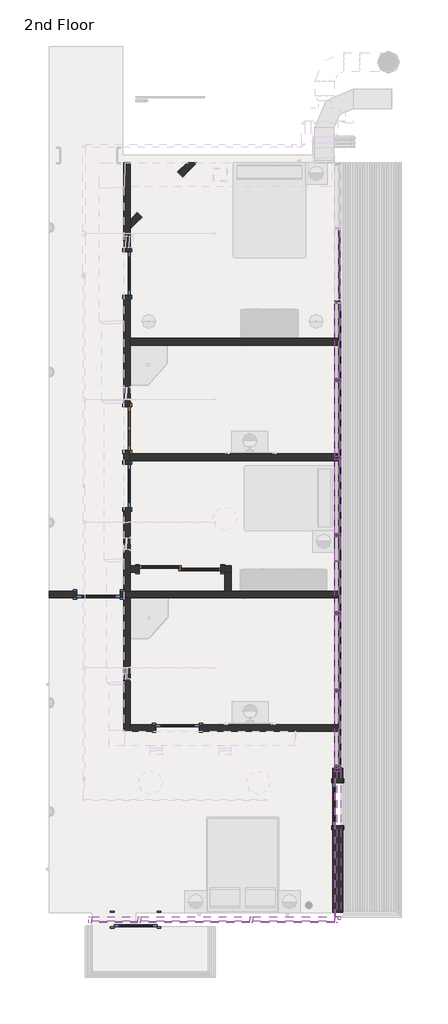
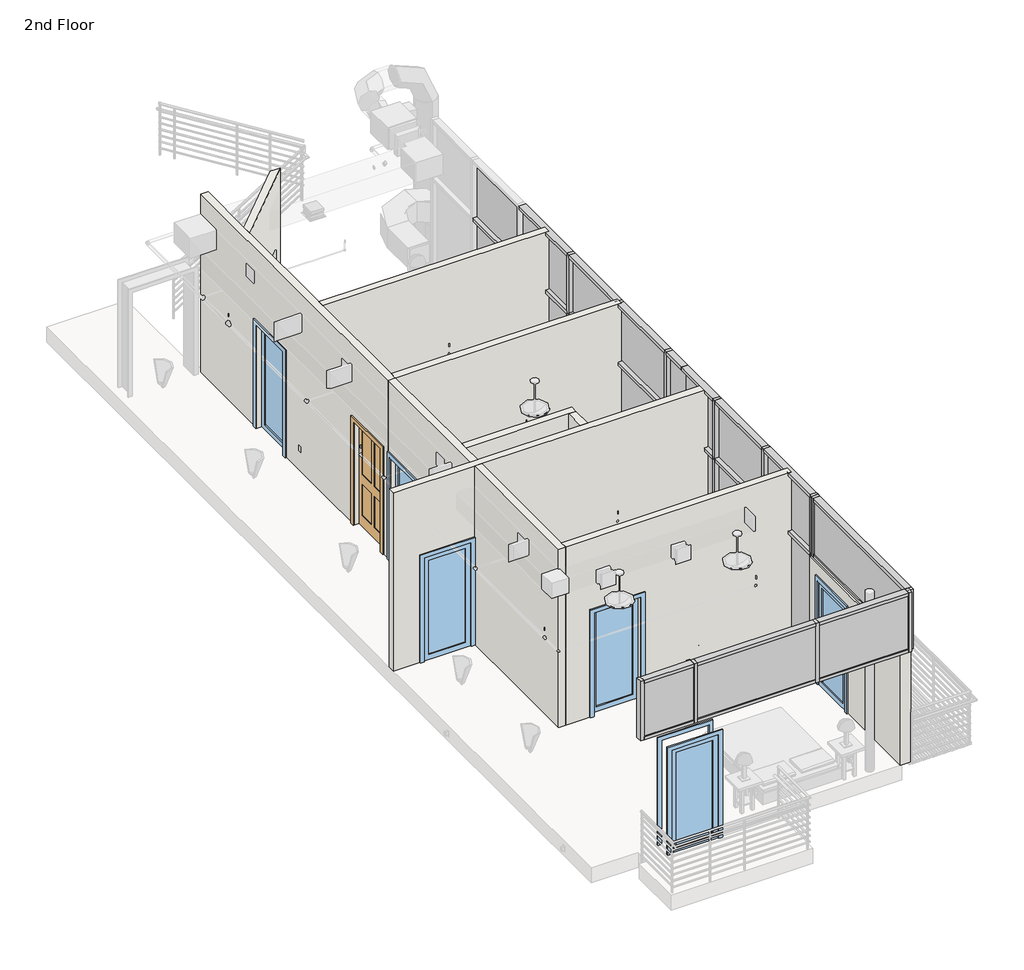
# One storey, part 1 of 7: 49 members, 20 plates, 11 walls, 6 windows, 2 doors.
"""IFC4 building model written with IfcOpenShell, lengths in millimetres."""

from ifc_helpers import new_model, si_unit, frame, origin, place, context, project, spatial, polyline, outline, extrude, faceted_brep, transform, mapped, element, save
from components import door_0975cc44, door_e1f4216b, member_0b7646a3, member_d13a5c2f, member_aaa03826, member_8faf7429, member_7ffb4a7b, member_f0fea5a5, member_591cd9a7, member_ec06d1cd, member_6ce1ec76, member_2b49869a, member_ee409385, member_75074519, member_307239a2, member_f5e9092a, member_d9503739, member_801a2072, member_64ee9188, member_3fbb5cd5, member_3783eaa0, system_panel_system_panel_025269df, system_panel_system_panel_d8a96c84, system_panel_system_panel_8fb97314, system_panel_system_panel_f82bbedd, system_panel_system_panel_d796fc41, system_panel_system_panel_404112fb, system_panel_system_panel_6c834083, system_panel_system_panel_0ca576fe, system_panel_system_panel_459aa32f, system_panel_system_panel_79724349, system_panel_system_panel_667b8a08, system_panel_system_panel_4f7dd7d8, system_panel_system_panel_1d26f707, system_panel_system_panel_537caf6d, system_panel_system_panel_e7415253, system_panel_system_panel_6940bc57, window_99bce362, window_29cceb54, window_e49b49a8, window_4364fc02

model = new_model("IFC4")

# Units and contexts
model_context = context("Model", 3, world=origin())
ifc_project = project(units=[si_unit("LENGTHUNIT", "METRE", prefix="MILLI")], contexts=[model_context])

# Site, building, storey
site = spatial("IfcSite", under=ifc_project)
building = spatial("IfcBuilding", under=site)
storey = spatial("IfcBuildingStorey", under=building, Name="2nd Floor", Elevation=7924.8)

# Doors
placement = place(None, origin())
door_shape = door_0975cc44(model_context)
element("IfcDoor", 1, ObjectType="Single-Panel 2 : 36\" x 84\"", at=placement, inside=storey, context=model_context, shape_type="MappedRepresentation", body=[
    mapped(door_shape, transform((-2819.1604947, 3539.8310017, 7924.8), x_axis=(0.0, -1.0, 0.0), y_axis=(1.0, 0.0, 0.0), z_axis=(0.0, 0.0, 1.0))),
])
door_2_shape = door_e1f4216b(model_context)
element("IfcDoor", 2, ObjectType="Sliding-2 panel : 68\" x 80\"", at=placement, inside=storey, context=model_context, shape_type="MappedRepresentation", body=[
    mapped(door_2_shape, transform((-1701.5604947, 441.0310017, 7924.8), x_axis=(1.0, 0.0, 0.0), y_axis=(0.0, 1.0, 0.0), z_axis=(0.0, 0.0, 1.0))),
])

# Members
member_shape = member_0b7646a3(model_context)
element("IfcMember", 3, ObjectType="Rectangular Mullion : 2.5\" x 5\" rectangular", at=placement, inside=storey, context=model_context, shape_type="MappedRepresentation", body=[
    mapped(member_shape, transform((1628.9560388, 1246.609643, 7924.8), x_axis=(0.0, 0.0, -1.0), y_axis=(-1.0, 0.0, 0.0), z_axis=(0.0, 1.0, 0.0))),
])
member_2_shape = member_d13a5c2f(model_context)
element("IfcMember", 4, ObjectType="Rectangular Mullion : 2.5\" x 5\" rectangular", at=placement, inside=storey, context=model_context, shape_type="MappedRepresentation", body=[
    mapped(member_2_shape, transform((1628.9560388, 732.259643, 7924.8), x_axis=(0.0, 0.0, -1.0), y_axis=(-1.0, 0.0, 0.0), z_axis=(0.0, 1.0, 0.0))),
])
member_3_shape = member_aaa03826(model_context)
element("IfcMember", 5, ObjectType="Rectangular Mullion : 2.5\" x 5\" rectangular", at=placement, inside=storey, context=model_context, shape_type="MappedRepresentation", body=[
    mapped(member_3_shape, transform((1628.9560388, 732.259643, 10363.2), x_axis=(0.0, 0.0, 1.0), y_axis=(-1.0, 0.0, 0.0), z_axis=(0.0, -1.0, 0.0))),
])
member_4_shape = member_8faf7429(model_context)
element("IfcMember", 6, ObjectType="Rectangular Mullion : 2.5\" x 5\" rectangular", at=placement, inside=storey, context=model_context, shape_type="MappedRepresentation", body=[
    mapped(member_4_shape, transform((1628.9560388, -328.190357, 10363.2), x_axis=(0.0, 0.0, 1.0), y_axis=(-1.0, 0.0, 0.0), z_axis=(0.0, -1.0, 0.0))),
])
element("IfcMember", 7, ObjectType="Rectangular Mullion : 2.5\" x 5\" rectangular", at=placement, inside=storey, context=model_context, shape_type="MappedRepresentation", body=[
    mapped(member_2_shape, transform((1628.9560388, -328.190357, 11582.4), x_axis=(0.0, 0.0, 1.0), y_axis=(-1.0, 0.0, 0.0), z_axis=(0.0, -1.0, 0.0))),
])
element("IfcMember", 8, ObjectType="Rectangular Mullion : 2.5\" x 5\" rectangular", at=placement, inside=storey, context=model_context, shape_type="MappedRepresentation", body=[
    mapped(member_shape, transform((1628.9560388, 732.259643, 11582.4), x_axis=(0.0, 0.0, 1.0), y_axis=(-1.0, 0.0, 0.0), z_axis=(0.0, -1.0, 0.0))),
])
member_5_shape = member_7ffb4a7b(model_context)
element("IfcMember", 9, ObjectType="Rectangular Mullion : 2.5\" x 5\" rectangular", at=placement, inside=storey, context=model_context, shape_type="MappedRepresentation", body=[
    mapped(member_5_shape, transform((1628.9560388, -3573.040357, 11582.4), x_axis=(0.0, 0.0, 1.0), y_axis=(-1.0, 0.0, 0.0), z_axis=(0.0, -1.0, 0.0))),
])
member_6_shape = member_f0fea5a5(model_context)
element("IfcMember", 10, ObjectType="Rectangular Mullion : 2.5\" x 5\" rectangular", at=placement, inside=storey, context=model_context, shape_type="MappedRepresentation", body=[
    mapped(member_6_shape, transform((1628.9560388, 2916.659643, 7924.8), x_axis=(0.0, -1.0, 0.0), y_axis=(-1.0, 0.0, 0.0), z_axis=(0.0, 0.0, -1.0))),
])
element("IfcMember", 11, ObjectType="Rectangular Mullion : 2.5\" x 5\" rectangular", at=placement, inside=storey, context=model_context, shape_type="MappedRepresentation", body=[
    mapped(member_6_shape, transform((1628.9560388, -359.940357, 7924.8), x_axis=(0.0, -1.0, 0.0), y_axis=(-1.0, 0.0, 0.0), z_axis=(0.0, 0.0, -1.0))),
])
element("IfcMember", 12, ObjectType="Rectangular Mullion : 2.5\" x 5\" rectangular", at=placement, inside=storey, context=model_context, shape_type="MappedRepresentation", body=[
    mapped(member_6_shape, transform((1628.9560388, 6218.659643, 7924.8), x_axis=(0.0, -1.0, 0.0), y_axis=(-1.0, 0.0, 0.0), z_axis=(0.0, 0.0, -1.0))),
])
element("IfcMember", 13, ObjectType="Rectangular Mullion : 2.5\" x 5\" rectangular", at=placement, inside=storey, context=model_context, shape_type="MappedRepresentation", body=[
    mapped(member_6_shape, transform((1628.9560388, 4554.959643, 7924.8), x_axis=(0.0, -1.0, 0.0), y_axis=(-1.0, 0.0, 0.0), z_axis=(0.0, 0.0, -1.0))),
])
element("IfcMember", 14, ObjectType="Rectangular Mullion : 2.5\" x 5\" rectangular", at=placement, inside=storey, context=model_context, shape_type="MappedRepresentation", body=[
    mapped(member_6_shape, transform((1628.9560388, -1998.240357, 7924.8), x_axis=(0.0, -1.0, 0.0), y_axis=(-1.0, 0.0, 0.0), z_axis=(0.0, 0.0, -1.0))),
])
element("IfcMember", 15, ObjectType="Rectangular Mullion : 2.5\" x 5\" rectangular", at=placement, inside=storey, context=model_context, shape_type="MappedRepresentation", body=[
    mapped(member_6_shape, transform((1628.9560388, 1278.359643, 7924.8), x_axis=(0.0, -1.0, 0.0), y_axis=(-1.0, 0.0, 0.0), z_axis=(0.0, 0.0, -1.0))),
])
member_7_shape = member_591cd9a7(model_context)
element("IfcMember", 16, ObjectType="Rectangular Mullion : 2.5\" x 5\" rectangular", at=placement, inside=storey, context=model_context, shape_type="MappedRepresentation", body=[
    mapped(member_7_shape, transform((1628.9560388, 1310.109643, 10363.2), x_axis=(0.0, 0.0, 1.0), y_axis=(-1.0, 0.0, 0.0), z_axis=(0.0, -1.0, 0.0))),
])
element("IfcMember", 17, ObjectType="Rectangular Mullion : 2.5\" x 5\" rectangular", at=placement, inside=storey, context=model_context, shape_type="MappedRepresentation", body=[
    mapped(member_7_shape, transform((1628.9560388, -1966.490357, 10363.2), x_axis=(0.0, 0.0, 1.0), y_axis=(-1.0, 0.0, 0.0), z_axis=(0.0, -1.0, 0.0))),
])
element("IfcMember", 18, ObjectType="Rectangular Mullion : 2.5\" x 5\" rectangular", at=placement, inside=storey, context=model_context, shape_type="MappedRepresentation", body=[
    mapped(member_7_shape, transform((1628.9560388, 2948.409643, 10363.2), x_axis=(0.0, 0.0, 1.0), y_axis=(-1.0, 0.0, 0.0), z_axis=(0.0, -1.0, 0.0))),
])
member_8_shape = member_ec06d1cd(model_context)
element("IfcMember", 19, ObjectType="Rectangular Mullion : 2.5\" x 5\" rectangular", at=placement, inside=storey, context=model_context, shape_type="MappedRepresentation", body=[
    mapped(member_8_shape, transform((1628.9560388, -3573.040357, 10363.2), x_axis=(0.0, 0.0, 1.0), y_axis=(-1.0, 0.0, 0.0), z_axis=(0.0, -1.0, 0.0))),
])
member_9_shape = member_6ce1ec76(model_context)
element("IfcMember", 20, ObjectType="Rectangular Mullion : 2.5\" x 5\" rectangular", at=placement, inside=storey, context=model_context, shape_type="MappedRepresentation", body=[
    mapped(member_9_shape, transform((1628.9560388, 2948.409643, 11582.4), x_axis=(0.0, 0.0, 1.0), y_axis=(-1.0, 0.0, 0.0), z_axis=(0.0, -1.0, 0.0))),
])
element("IfcMember", 21, ObjectType="Rectangular Mullion : 2.5\" x 5\" rectangular", at=placement, inside=storey, context=model_context, shape_type="MappedRepresentation", body=[
    mapped(member_9_shape, transform((1628.9560388, -1966.490357, 11582.4), x_axis=(0.0, 0.0, 1.0), y_axis=(-1.0, 0.0, 0.0), z_axis=(0.0, -1.0, 0.0))),
])
element("IfcMember", 22, ObjectType="Rectangular Mullion : 2.5\" x 5\" rectangular", at=placement, inside=storey, context=model_context, shape_type="MappedRepresentation", body=[
    mapped(member_9_shape, transform((1628.9560388, 1310.109643, 11582.4), x_axis=(0.0, 0.0, 1.0), y_axis=(-1.0, 0.0, 0.0), z_axis=(0.0, -1.0, 0.0))),
])
member_10_shape = member_2b49869a(model_context)
element("IfcMember", 23, ObjectType="Rectangular Mullion : 2.5\" x 5\" rectangular", at=placement, inside=storey, context=model_context, shape_type="MappedRepresentation", body=[
    mapped(member_10_shape, transform((1628.9560388, 2916.659643, 10363.2), x_axis=(0.0, -1.0, 0.0), y_axis=(-1.0, 0.0, 0.0), z_axis=(0.0, 0.0, -1.0))),
])
element("IfcMember", 24, ObjectType="Rectangular Mullion : 2.5\" x 5\" rectangular", at=placement, inside=storey, context=model_context, shape_type="MappedRepresentation", body=[
    mapped(member_10_shape, transform((1628.9560388, -359.940357, 10363.2), x_axis=(0.0, -1.0, 0.0), y_axis=(-1.0, 0.0, 0.0), z_axis=(0.0, 0.0, -1.0))),
])
element("IfcMember", 25, ObjectType="Rectangular Mullion : 2.5\" x 5\" rectangular", at=placement, inside=storey, context=model_context, shape_type="MappedRepresentation", body=[
    mapped(member_10_shape, transform((1628.9560388, 4554.959643, 10363.2), x_axis=(0.0, -1.0, 0.0), y_axis=(-1.0, 0.0, 0.0), z_axis=(0.0, 0.0, -1.0))),
])
element("IfcMember", 26, ObjectType="Rectangular Mullion : 2.5\" x 5\" rectangular", at=placement, inside=storey, context=model_context, shape_type="MappedRepresentation", body=[
    mapped(member_10_shape, transform((1628.9560388, -1998.240357, 10363.2), x_axis=(0.0, -1.0, 0.0), y_axis=(-1.0, 0.0, 0.0), z_axis=(0.0, 0.0, -1.0))),
])
element("IfcMember", 27, ObjectType="Rectangular Mullion : 2.5\" x 5\" rectangular", at=placement, inside=storey, context=model_context, shape_type="MappedRepresentation", body=[
    mapped(member_10_shape, transform((1628.9560388, 1278.359643, 10363.2), x_axis=(0.0, -1.0, 0.0), y_axis=(-1.0, 0.0, 0.0), z_axis=(0.0, 0.0, -1.0))),
])
member_11_shape = member_ee409385(model_context)
element("IfcMember", 28, ObjectType="Rectangular Mullion : 2.5\" x 5\" rectangular", at=placement, inside=storey, context=model_context, shape_type="MappedRepresentation", body=[
    mapped(member_11_shape, transform((1628.9560388, -3636.540357, 7924.8), x_axis=(0.0, -1.0, 0.0), y_axis=(-1.0, 0.0, 0.0), z_axis=(0.0, 0.0, -1.0))),
])
member_12_shape = member_75074519(model_context)
element("IfcMember", 29, ObjectType="Rectangular Mullion : 2.5\" x 5\" rectangular", at=placement, inside=storey, context=model_context, shape_type="MappedRepresentation", body=[
    mapped(member_12_shape, transform((1628.9560388, -3636.540357, 10363.2), x_axis=(0.0, -1.0, 0.0), y_axis=(-1.0, 0.0, 0.0), z_axis=(0.0, 0.0, -1.0))),
])
member_13_shape = member_307239a2(model_context)
element("IfcMember", 30, ObjectType="Rectangular Mullion : 2.5\" x 5\" rectangular", at=placement, inside=storey, context=model_context, shape_type="MappedRepresentation", body=[
    mapped(member_13_shape, transform((1628.9560388, 4586.709643, 10363.2), x_axis=(0.0, 0.0, 1.0), y_axis=(-1.0, 0.0, 0.0), z_axis=(0.0, -1.0, 0.0))),
])
member_14_shape = member_f5e9092a(model_context)
element("IfcMember", 31, ObjectType="Rectangular Mullion : 2.5\" x 5\" rectangular", at=placement, inside=storey, context=model_context, shape_type="MappedRepresentation", body=[
    mapped(member_14_shape, transform((1628.9560388, 6250.409643, 10363.2), x_axis=(0.0, 0.0, 1.0), y_axis=(-1.0, 0.0, 0.0), z_axis=(0.0, -1.0, 0.0))),
])
member_15_shape = member_d9503739(model_context)
element("IfcMember", 32, ObjectType="Rectangular Mullion : 2.5\" x 5\" rectangular", at=placement, inside=storey, context=model_context, shape_type="MappedRepresentation", body=[
    mapped(member_15_shape, transform((1628.9560388, 4586.709643, 11582.4), x_axis=(0.0, 0.0, 1.0), y_axis=(-1.0, 0.0, 0.0), z_axis=(0.0, -1.0, 0.0))),
])
member_16_shape = member_801a2072(model_context)
element("IfcMember", 33, ObjectType="Rectangular Mullion : 2.5\" x 5\" rectangular", at=placement, inside=storey, context=model_context, shape_type="MappedRepresentation", body=[
    mapped(member_16_shape, transform((-3565.3439612, -6836.940357, 11582.4), x_axis=(0.0, 0.0, 1.0), y_axis=(0.0, 1.0, 0.0), z_axis=(-1.0, 0.0, 0.0))),
])
member_17_shape = member_64ee9188(model_context)
element("IfcMember", 34, ObjectType="Rectangular Mullion : 2.5\" x 5\" rectangular", at=placement, inside=storey, context=model_context, shape_type="MappedRepresentation", body=[
    mapped(member_17_shape, transform((-168.0939612, -6836.940357, 11582.4), x_axis=(0.0, 0.0, 1.0), y_axis=(0.0, 1.0, 0.0), z_axis=(-1.0, 0.0, 0.0))),
])
element("IfcMember", 35, ObjectType="Rectangular Mullion : 2.5\" x 5\" rectangular", at=placement, inside=storey, context=model_context, shape_type="MappedRepresentation", body=[
    mapped(member_10_shape, transform((-2562.0439612, -6836.940357, 10363.2), x_axis=(-1.0, 0.0, 0.0), y_axis=(0.0, 1.0, 0.0), z_axis=(0.0, 0.0, -1.0))),
])
element("IfcMember", 36, ObjectType="Rectangular Mullion : 2.5\" x 5\" rectangular", at=placement, inside=storey, context=model_context, shape_type="MappedRepresentation", body=[
    mapped(member_10_shape, transform((-199.8439612, -6836.940357, 10363.2), x_axis=(-1.0, 0.0, 0.0), y_axis=(0.0, 1.0, 0.0), z_axis=(0.0, 0.0, -1.0))),
])
member_18_shape = member_3fbb5cd5(model_context)
element("IfcMember", 37, ObjectType="Rectangular Mullion : 2.5\" x 5\" rectangular", at=placement, inside=storey, context=model_context, shape_type="MappedRepresentation", body=[
    mapped(member_18_shape, transform((-2530.2939612, -6836.940357, 11582.4), x_axis=(0.0, 0.0, 1.0), y_axis=(0.0, 1.0, 0.0), z_axis=(-1.0, 0.0, 0.0))),
])
element("IfcMember", 38, ObjectType="Rectangular Mullion : 2.5\" x 5\" rectangular", at=placement, inside=storey, context=model_context, shape_type="MappedRepresentation", body=[
    mapped(member_12_shape, transform((-3628.8439612, -6836.940357, 10363.2), x_axis=(-1.0, 0.0, 0.0), y_axis=(0.0, 1.0, 0.0), z_axis=(0.0, 0.0, -1.0))),
])
element("IfcMember", 39, ObjectType="Rectangular Mullion : 2.5\" x 5\" rectangular", at=placement, inside=storey, context=model_context, shape_type="MappedRepresentation", body=[
    mapped(member_12_shape, transform((1628.9560388, -3636.540357, 10363.2), x_axis=(0.0, 1.0, 0.0), y_axis=(1.0, 0.0, 0.0), z_axis=(0.0, 0.0, -1.0))),
])
member_19_shape = member_3783eaa0(model_context)
element("IfcMember", 40, ObjectType="Rectangular Mullion : 2.5\" x 5\" rectangular", at=placement, inside=storey, context=model_context, shape_type="MappedRepresentation", body=[
    mapped(member_19_shape, transform((1628.9560388, -3700.040357, 11582.4), x_axis=(0.0, 0.0, 1.0), y_axis=(1.0, 0.0, 0.0), z_axis=(0.0, 1.0, 0.0))),
])
element("IfcMember", 41, ObjectType="Rectangular Mullion : 2.5\" x 5\" rectangular", at=placement, inside=storey, context=model_context, shape_type="MappedRepresentation", body=[
    mapped(member_9_shape, transform((1628.9560388, 2884.909643, 7924.8), x_axis=(0.0, 0.0, -1.0), y_axis=(-1.0, 0.0, 0.0), z_axis=(0.0, 1.0, 0.0))),
])
element("IfcMember", 42, ObjectType="Rectangular Mullion : 2.5\" x 5\" rectangular", at=placement, inside=storey, context=model_context, shape_type="MappedRepresentation", body=[
    mapped(member_9_shape, transform((1628.9560388, -391.690357, 7924.8), x_axis=(0.0, 0.0, -1.0), y_axis=(-1.0, 0.0, 0.0), z_axis=(0.0, 1.0, 0.0))),
])
element("IfcMember", 43, ObjectType="Rectangular Mullion : 2.5\" x 5\" rectangular", at=placement, inside=storey, context=model_context, shape_type="MappedRepresentation", body=[
    mapped(member_9_shape, transform((1628.9560388, 4523.209643, 7924.8), x_axis=(0.0, 0.0, -1.0), y_axis=(-1.0, 0.0, 0.0), z_axis=(0.0, 1.0, 0.0))),
])
element("IfcMember", 44, ObjectType="Rectangular Mullion : 2.5\" x 5\" rectangular", at=placement, inside=storey, context=model_context, shape_type="MappedRepresentation", body=[
    mapped(member_5_shape, transform((1628.9560388, -2029.990357, 7924.8), x_axis=(0.0, 0.0, -1.0), y_axis=(-1.0, 0.0, 0.0), z_axis=(0.0, 1.0, 0.0))),
])
element("IfcMember", 45, ObjectType="Rectangular Mullion : 2.5\" x 5\" rectangular", at=placement, inside=storey, context=model_context, shape_type="MappedRepresentation", body=[
    mapped(member_15_shape, transform((1628.9560388, 6186.909643, 7924.8), x_axis=(0.0, 0.0, -1.0), y_axis=(-1.0, 0.0, 0.0), z_axis=(0.0, 1.0, 0.0))),
])
element("IfcMember", 46, ObjectType="Rectangular Mullion : 2.5\" x 5\" rectangular", at=placement, inside=storey, context=model_context, shape_type="MappedRepresentation", body=[
    mapped(member_19_shape, transform((1628.9560388, -6773.440357, 10363.2), x_axis=(0.0, 0.0, -1.0), y_axis=(1.0, 0.0, 0.0), z_axis=(0.0, -1.0, 0.0))),
])
element("IfcMember", 47, ObjectType="Rectangular Mullion : 2.5\" x 5\" rectangular", at=placement, inside=storey, context=model_context, shape_type="MappedRepresentation", body=[
    mapped(member_17_shape, transform((1565.4560388, -6836.940357, 10363.2), x_axis=(0.0, 0.0, -1.0), y_axis=(0.0, 1.0, 0.0), z_axis=(1.0, 0.0, 0.0))),
])
element("IfcMember", 48, ObjectType="Rectangular Mullion : 2.5\" x 5\" rectangular", at=placement, inside=storey, context=model_context, shape_type="MappedRepresentation", body=[
    mapped(member_16_shape, transform((-2593.7939612, -6836.940357, 10363.2), x_axis=(0.0, 0.0, -1.0), y_axis=(0.0, 1.0, 0.0), z_axis=(1.0, 0.0, 0.0))),
])
element("IfcMember", 49, ObjectType="Rectangular Mullion : 2.5\" x 5\" rectangular", at=placement, inside=storey, context=model_context, shape_type="MappedRepresentation", body=[
    mapped(member_18_shape, transform((-231.5939612, -6836.940357, 10363.2), x_axis=(0.0, 0.0, -1.0), y_axis=(0.0, 1.0, 0.0), z_axis=(1.0, 0.0, 0.0))),
])
element("IfcMember", 50, ObjectType="Rectangular Mullion : 2.5\" x 5\" rectangular", at=placement, inside=storey, context=model_context, shape_type="MappedRepresentation", body=[
    mapped(member_12_shape, transform((1628.9560388, -6836.940357, 11582.4), x_axis=(1.0, 0.0, 0.0), y_axis=(0.0, 1.0, 0.0), z_axis=(0.0, 0.0, 1.0))),
])
element("IfcMember", 51, ObjectType="Rectangular Mullion : 2.5\" x 5\" rectangular", at=placement, inside=storey, context=model_context, shape_type="MappedRepresentation", body=[
    mapped(member_12_shape, transform((1628.9560388, -6836.940357, 11582.4), x_axis=(0.0, -1.0, 0.0), y_axis=(1.0, 0.0, 0.0), z_axis=(0.0, 0.0, 1.0))),
])

# Plates
system_panel_system_panel_shape = system_panel_system_panel_025269df(model_context)
element("IfcPlate", 52, ObjectType="System Panel : System Panel", at=placement, inside=storey, context=model_context, shape_type="MappedRepresentation", body=[
    mapped(system_panel_system_panel_shape, transform((1628.9560388, 5386.809643, 10394.95), x_axis=(0.0, -1.0, 0.0), y_axis=(1.0, 0.0, 0.0), z_axis=(0.0, 0.0, 1.0))),
])
system_panel_system_panel_2_shape = system_panel_system_panel_d8a96c84(model_context)
element("IfcPlate", 53, ObjectType="System Panel : System Panel", at=placement, inside=storey, context=model_context, shape_type="MappedRepresentation", body=[
    mapped(system_panel_system_panel_2_shape, transform((1628.9560388, 6993.359643, 10394.95), x_axis=(0.0, -1.0, 0.0), y_axis=(1.0, 0.0, 0.0), z_axis=(0.0, 0.0, 1.0))),
])
system_panel_system_panel_3_shape = system_panel_system_panel_8fb97314(model_context)
element("IfcPlate", 54, ObjectType="System Panel : System Panel", at=placement, inside=storey, context=model_context, shape_type="MappedRepresentation", body=[
    mapped(system_panel_system_panel_3_shape, transform((1628.9560388, 989.434643, 7988.3), x_axis=(0.0, -1.0, 0.0), y_axis=(1.0, 0.0, 0.0), z_axis=(0.0, 0.0, 1.0))),
])
system_panel_system_panel_4_shape = system_panel_system_panel_f82bbedd(model_context)
element("IfcPlate", 55, ObjectType="System Panel : System Panel", at=placement, inside=storey, context=model_context, shape_type="MappedRepresentation", body=[
    mapped(system_panel_system_panel_4_shape, transform((1628.9560388, 202.034643, 7988.3), x_axis=(0.0, -1.0, 0.0), y_axis=(1.0, 0.0, 0.0), z_axis=(0.0, 0.0, 1.0))),
])
system_panel_system_panel_5_shape = system_panel_system_panel_d796fc41(model_context)
element("IfcPlate", 56, ObjectType="System Panel : System Panel", at=placement, inside=storey, context=model_context, shape_type="MappedRepresentation", body=[
    mapped(system_panel_system_panel_5_shape, transform((1628.9560388, 989.434643, 10394.95), x_axis=(0.0, -1.0, 0.0), y_axis=(1.0, 0.0, 0.0), z_axis=(0.0, 0.0, 1.0))),
])
system_panel_system_panel_6_shape = system_panel_system_panel_404112fb(model_context)
element("IfcPlate", 57, ObjectType="System Panel : System Panel", at=placement, inside=storey, context=model_context, shape_type="MappedRepresentation", body=[
    mapped(system_panel_system_panel_6_shape, transform((1628.9560388, 202.034643, 10394.95), x_axis=(0.0, -1.0, 0.0), y_axis=(1.0, 0.0, 0.0), z_axis=(0.0, 0.0, 1.0))),
])
system_panel_system_panel_7_shape = system_panel_system_panel_6c834083(model_context)
element("IfcPlate", 58, ObjectType="System Panel : System Panel", at=placement, inside=storey, context=model_context, shape_type="MappedRepresentation", body=[
    mapped(system_panel_system_panel_7_shape, transform((1628.9560388, 2097.509643, 7988.3), x_axis=(0.0, -1.0, 0.0), y_axis=(1.0, 0.0, 0.0), z_axis=(0.0, 0.0, 1.0))),
])
element("IfcPlate", 59, ObjectType="System Panel : System Panel", at=placement, inside=storey, context=model_context, shape_type="MappedRepresentation", body=[
    mapped(system_panel_system_panel_7_shape, transform((1628.9560388, -1179.090357, 7988.3), x_axis=(0.0, -1.0, 0.0), y_axis=(1.0, 0.0, 0.0), z_axis=(0.0, 0.0, 1.0))),
])
element("IfcPlate", 60, ObjectType="System Panel : System Panel", at=placement, inside=storey, context=model_context, shape_type="MappedRepresentation", body=[
    mapped(system_panel_system_panel_7_shape, transform((1628.9560388, 3735.809643, 7988.3), x_axis=(0.0, -1.0, 0.0), y_axis=(1.0, 0.0, 0.0), z_axis=(0.0, 0.0, 1.0))),
])
system_panel_system_panel_8_shape = system_panel_system_panel_0ca576fe(model_context)
element("IfcPlate", 61, ObjectType="System Panel : System Panel", at=placement, inside=storey, context=model_context, shape_type="MappedRepresentation", body=[
    mapped(system_panel_system_panel_8_shape, transform((1628.9560388, 2097.509643, 10394.95), x_axis=(0.0, -1.0, 0.0), y_axis=(1.0, 0.0, 0.0), z_axis=(0.0, 0.0, 1.0))),
])
element("IfcPlate", 62, ObjectType="System Panel : System Panel", at=placement, inside=storey, context=model_context, shape_type="MappedRepresentation", body=[
    mapped(system_panel_system_panel_8_shape, transform((1628.9560388, -1179.090357, 10394.95), x_axis=(0.0, -1.0, 0.0), y_axis=(1.0, 0.0, 0.0), z_axis=(0.0, 0.0, 1.0))),
])
element("IfcPlate", 63, ObjectType="System Panel : System Panel", at=placement, inside=storey, context=model_context, shape_type="MappedRepresentation", body=[
    mapped(system_panel_system_panel_8_shape, transform((1628.9560388, 3735.809643, 10394.95), x_axis=(0.0, -1.0, 0.0), y_axis=(1.0, 0.0, 0.0), z_axis=(0.0, 0.0, 1.0))),
])
system_panel_system_panel_9_shape = system_panel_system_panel_459aa32f(model_context)
element("IfcPlate", 64, ObjectType="System Panel : System Panel", at=placement, inside=storey, context=model_context, shape_type="MappedRepresentation", body=[
    mapped(system_panel_system_panel_9_shape, transform((1628.9560388, -2801.515357, 7988.3), x_axis=(0.0, -1.0, 0.0), y_axis=(1.0, 0.0, 0.0), z_axis=(0.0, 0.0, 1.0))),
])
system_panel_system_panel_10_shape = system_panel_system_panel_79724349(model_context)
element("IfcPlate", 65, ObjectType="System Panel : System Panel", at=placement, inside=storey, context=model_context, shape_type="MappedRepresentation", body=[
    mapped(system_panel_system_panel_10_shape, transform((1628.9560388, -2801.515357, 10394.95), x_axis=(0.0, -1.0, 0.0), y_axis=(1.0, 0.0, 0.0), z_axis=(0.0, 0.0, 1.0))),
])
system_panel_system_panel_11_shape = system_panel_system_panel_667b8a08(model_context)
element("IfcPlate", 66, ObjectType="System Panel : System Panel", at=placement, inside=storey, context=model_context, shape_type="MappedRepresentation", body=[
    mapped(system_panel_system_panel_11_shape, transform((1628.9560388, 5386.809643, 7988.3), x_axis=(0.0, -1.0, 0.0), y_axis=(1.0, 0.0, 0.0), z_axis=(0.0, 0.0, 1.0))),
])
system_panel_system_panel_12_shape = system_panel_system_panel_4f7dd7d8(model_context)
element("IfcPlate", 67, ObjectType="System Panel : System Panel", at=placement, inside=storey, context=model_context, shape_type="MappedRepresentation", body=[
    mapped(system_panel_system_panel_12_shape, transform((1628.9560388, 6993.359643, 7988.3), x_axis=(0.0, -1.0, 0.0), y_axis=(1.0, 0.0, 0.0), z_axis=(0.0, 0.0, 1.0))),
])
system_panel_system_panel_13_shape = system_panel_system_panel_1d26f707(model_context)
element("IfcPlate", 68, ObjectType="System Panel : System Panel", at=placement, inside=storey, context=model_context, shape_type="MappedRepresentation", body=[
    mapped(system_panel_system_panel_13_shape, transform((698.6810388, -6836.940357, 10426.7), x_axis=(-1.0, 0.0, 0.0), y_axis=(0.0, -1.0, 0.0), z_axis=(0.0, 0.0, 1.0))),
])
system_panel_system_panel_14_shape = system_panel_system_panel_537caf6d(model_context)
element("IfcPlate", 69, ObjectType="System Panel : System Panel", at=placement, inside=storey, context=model_context, shape_type="MappedRepresentation", body=[
    mapped(system_panel_system_panel_14_shape, transform((-3079.5689612, -6836.940357, 10426.7), x_axis=(-1.0, 0.0, 0.0), y_axis=(0.0, -1.0, 0.0), z_axis=(0.0, 0.0, 1.0))),
])
system_panel_system_panel_15_shape = system_panel_system_panel_e7415253(model_context)
element("IfcPlate", 70, ObjectType="System Panel : System Panel", at=placement, inside=storey, context=model_context, shape_type="MappedRepresentation", body=[
    mapped(system_panel_system_panel_15_shape, transform((-1380.9439612, -6836.940357, 10426.7), x_axis=(-1.0, 0.0, 0.0), y_axis=(0.0, -1.0, 0.0), z_axis=(0.0, 0.0, 1.0))),
])
system_panel_system_panel_16_shape = system_panel_system_panel_6940bc57(model_context)
element("IfcPlate", 71, ObjectType="System Panel : System Panel", at=placement, inside=storey, context=model_context, shape_type="MappedRepresentation", body=[
    mapped(system_panel_system_panel_16_shape, transform((1628.9560388, -5236.740357, 10426.7), x_axis=(0.0, 1.0, 0.0), y_axis=(-1.0, 0.0, 0.0), z_axis=(0.0, 0.0, 1.0))),
])

# Walls
element("IfcWall", 72, ObjectType="Generic - 8\"", at=placement, inside=storey, context=model_context, shape_type="SweptSolid", body=[
    extrude(outline(polyline([(-3636.540357, 7924.8), (-3941.340357, 7924.8), (-3941.340357, 10058.4), (-4855.740357, 10058.4), (-4855.740357, 7924.8), (-6684.540357, 7924.8), (-6684.540357, 10363.2), (-3636.540357, 10363.2), (-3636.540357, 7924.8)])), frame((1527.3560388, 0.0, 0.0), z_axis=(1.0, 0.0, 0.0), x_axis=(0.0, 1.0, 0.0)), (0.0, 0.0, 1.0), 203.2),
])
element("IfcWall", 73, ObjectType="Interior - 5 1/2\" Partition (1-hr)", at=placement, inside=storey, context=model_context, shape_type="SweptSolid", body=[
    extrude(outline(polyline([(-2749.3104947, 5438.4810017), (1628.9560388, 5438.4810017), (1628.9560388, 5298.7810017), (-2749.3104947, 5298.7810017), (-2749.3104947, 5438.4810017)])), frame((0.0, 0.0, 7924.8), z_axis=(0.0, 0.0, 1.0), x_axis=(1.0, 0.0, 0.0)), (0.0, 0.0, 1.0), 3657.6),
])
element("IfcWall", 74, ObjectType="Interior - 5 1/2\" Partition (1-hr)", at=placement, inside=storey, context=model_context, shape_type="Brep", body=[
    faceted_brep([(-2889.0104947, 9152.359643, 7924.8), (-2749.3104947, 9152.359643, 7924.8), (-2749.3104947, 7949.3924603, 7924.8), (-2749.3104947, 7751.8268256, 7924.8), (-2749.3104947, 7269.5266583, 7924.8), (-2889.0104947, 7269.5266583, 7924.8), (-2889.0104947, 2860.3810017, 7924.8), (-2889.0104947, 3082.7550182, 7924.8), (-2749.3104947, 3082.7550182, 7924.8), (-2749.3104947, 3000.0810017, 7924.8), (-2749.3104947, 2860.3810017, 7924.8), (-2889.0104947, 3997.1550182, 7924.8), (-2889.0104947, 6355.1266583, 7924.8), (-2749.3104947, 6355.1266583, 7924.8), (-2749.3104947, 5438.4810017, 7924.8), (-2749.3104947, 5298.7810017, 7924.8), (-2749.3104947, 3997.1550182, 7924.8), (-2749.3104947, 3082.7550182, 10058.4), (-2749.3104947, 3997.1550182, 10058.4), (-2749.3104947, 6355.1266583, 10058.4), (-2749.3104947, 7269.5266583, 10058.4), (-2749.3104947, 9152.359643, 11582.4), (-2749.3104947, 7949.3924603, 11582.4), (-2749.3104947, 7751.8268256, 11582.4), (-2749.3104947, 5438.4810017, 11582.4), (-2749.3104947, 5298.7810017, 11582.4), (-2749.3104947, 3000.0810017, 11582.4), (-2749.3104947, 2860.3810017, 11582.4), (-2889.0104947, 3082.7550182, 10058.4), (-2889.0104947, 2860.3810017, 11582.4), (-2889.0104947, 9152.359643, 11582.4), (-2889.0104947, 7269.5266583, 10058.4), (-2889.0104947, 6355.1266583, 10058.4), (-2889.0104947, 3997.1550182, 10058.4)], [[[0, 1, 2, 3, 4, 5]], [[6, 7, 8, 9, 10]], [[11, 12, 13, 14, 15, 16]], [[10, 9, 8, 17, 18, 16, 15, 14, 13, 19, 20, 4, 3, 2, 1, 21, 22, 23, 24, 25, 26, 27]], [[28, 7, 6, 29, 30, 0, 5, 31, 32, 12, 11, 33]], [[27, 26, 25, 24, 23, 22, 21, 30, 29]], [[21, 1, 0, 30]], [[10, 27, 29, 6]], [[32, 19, 13, 12]], [[31, 20, 19, 32]], [[20, 31, 5, 4]], [[17, 8, 7, 28]], [[18, 17, 28, 33]], [[16, 18, 33, 11]]]),
])
element("IfcWall", 75, ObjectType="Interior - 5 1/2\" Partition (1-hr)", at=placement, inside=storey, context=model_context, shape_type="Brep", body=[
    faceted_brep([(1628.9560388, -38.7325454, 11582.4), (1628.9560388, -38.7325454, 7924.8), (1628.9560388, 100.9674546, 7924.8), (1628.9560388, 100.9674546, 11582.4), (-2749.3104947, -38.7325454, 7924.8), (-2889.0104947, -38.7325454, 7924.8), (-2965.0798898, -38.7325454, 7924.8), (-2965.0798898, 100.9674546, 7924.8), (-2889.0104947, 100.9674546, 7924.8), (-2749.3104947, 100.9674546, 7924.8), (-755.4104947, 100.9674546, 7924.8), (-615.7104947, 100.9674546, 7924.8), (-4467.0439612, -38.7325454, 7924.8), (-4467.0439612, 100.9674546, 7924.8), (-3879.4798898, 100.9674546, 7924.8), (-3879.4798898, -38.7325454, 7924.8), (-2749.3104947, -38.7325454, 11582.4), (-2889.0104947, -38.7325454, 11582.4), (-4467.0439612, -38.7325454, 11582.4), (-3879.4798898, -38.7325454, 10058.4), (-2965.0798898, -38.7325454, 10058.4), (-2965.0798898, 100.9674546, 10058.4), (-3879.4798898, 100.9674546, 10058.4), (-4467.0439612, 100.9674546, 11582.4), (-2889.0104947, 100.9674546, 11582.4), (-2749.3104947, 100.9674546, 11582.4), (-755.4104947, 100.9674546, 11582.4), (-615.7104947, 100.9674546, 11582.4)], [[[0, 1, 2, 3]], [[2, 1, 4, 5, 6, 7, 8, 9, 10, 11]], [[12, 13, 14, 15]], [[1, 0, 16, 17, 18, 12, 15, 19, 20, 6, 5, 4]], [[3, 2, 11, 10, 9, 8, 7, 21, 22, 14, 13, 23, 24, 25, 26, 27]], [[18, 17, 16, 0, 3, 27, 26, 25, 24, 23]], [[12, 18, 23, 13]], [[20, 21, 7, 6]], [[19, 22, 21, 20]], [[22, 19, 15, 14]]]),
])
element("IfcWall", 76, ObjectType="Interior - 5 1/2\" Partition (1-hr)", at=placement, inside=storey, context=model_context, shape_type="Brep", body=[
    faceted_brep([(-2749.3104947, 2860.3810017, 7924.8), (1628.9560388, 2860.3810017, 7924.8), (1628.9560388, 2860.3810017, 11582.4), (-2749.3104947, 2860.3810017, 11582.4), (-2749.3104947, 3000.0810017, 7924.8), (-2749.3104947, 3000.0810017, 11582.4), (1014.1514793, 3000.0810017, 11582.4), (1126.1605983, 3000.0810017, 11582.4), (1628.9560388, 3000.0810017, 11582.4), (1628.9560388, 3000.0810017, 7924.8), (1126.1605983, 3000.0810017, 7924.8), (1014.1514793, 3000.0810017, 7924.8)], [[[0, 1, 2, 3]], [[4, 5, 6, 7, 8, 9, 10, 11]], [[1, 0, 4, 11, 10, 9]], [[2, 1, 9, 8]], [[3, 2, 8, 7, 6, 5]], [[0, 3, 5, 4]]]),
])
element("IfcWall", 77, ObjectType="Interior - 5 1/2\" Partition (1-hr)", at=placement, inside=storey, context=model_context, shape_type="Brep", body=[
    faceted_brep([(-2889.0104947, 2860.3810017, 7924.8), (-2749.3104947, 2860.3810017, 7924.8), (-2749.3104947, 2777.8310017, 7924.8), (-2889.0104947, 2777.8310017, 7924.8), (-2749.3104947, 100.9674546, 7924.8), (-2889.0104947, 100.9674546, 7924.8), (-2889.0104947, 1863.4310017, 7924.8), (-2749.3104947, 1863.4310017, 7924.8), (-2749.3104947, 637.8810017, 7924.8), (-2749.3104947, 498.1810017, 7924.8), (-2889.0104947, 100.9674546, 11582.4), (-2889.0104947, 2860.3810017, 11582.4), (-2889.0104947, 2777.8310017, 10058.4), (-2889.0104947, 1863.4310017, 10058.4), (-2749.3104947, 2860.3810017, 11582.4), (-2749.3104947, 637.8810017, 11582.4), (-2749.3104947, 498.1810017, 11582.4), (-2749.3104947, 100.9674546, 11582.4), (-2749.3104947, 1863.4310017, 10058.4), (-2749.3104947, 2777.8310017, 10058.4)], [[[0, 1, 2, 3]], [[4, 5, 6, 7, 8, 9]], [[10, 11, 0, 3, 12, 13, 6, 5]], [[14, 15, 16, 17, 4, 9, 8, 7, 18, 19, 2, 1]], [[11, 10, 17, 16, 15, 14]], [[0, 11, 14, 1]], [[10, 5, 4, 17]], [[19, 12, 3, 2]], [[18, 13, 12, 19]], [[13, 18, 7, 6]]]),
])
element("IfcWall", 78, ObjectType="Interior - 5 1/2\" Partition (1-hr)", at=placement, inside=storey, context=model_context, shape_type="Brep", body=[
    faceted_brep([(-2606.9846107, 8091.7183443, 10058.4), (-2606.9846107, 8091.7183443, 7924.8), (-2749.3104947, 7949.3924603, 7924.8), (-2749.3104947, 7949.3924603, 11582.4), (-1546.343312, 9152.359643, 11582.4), (-1546.343312, 9152.359643, 7924.8), (-1744.880023, 8953.8229319, 7924.8), (-1744.880023, 8953.8229319, 10058.4), (-2749.3104947, 7751.8268256, 7924.8), (-2508.2017933, 7992.9355269, 7924.8), (-2508.2017933, 7992.9355269, 10058.4), (-1646.0972057, 8855.0401146, 10058.4), (-1646.0972057, 8855.0401146, 7924.8), (-1348.7776773, 9152.359643, 7924.8), (-1348.7776773, 9152.359643, 11582.4), (-2749.3104947, 7751.8268256, 11582.4)], [[[0, 1, 2, 3, 4, 5, 6, 7]], [[8, 9, 10, 11, 12, 13, 14, 15]], [[2, 1, 9, 8]], [[6, 5, 13, 12]], [[4, 3, 15, 14]], [[3, 2, 8, 15]], [[5, 4, 14, 13]], [[12, 11, 7, 6]], [[10, 9, 1, 0]], [[11, 10, 0, 7]]]),
])
element("IfcWall", 79, ObjectType="Interior - 5 1/2\" Partition (1-hr)", at=placement, inside=storey, context=model_context, shape_type="Brep", body=[
    faceted_brep([(-2889.0104947, -38.7325454, 7924.8), (-2889.0104947, -2854.6189983, 7924.8), (-2889.0104947, -2854.6189983, 11582.4), (-2889.0104947, -38.7325454, 11582.4), (-2749.3104947, -38.7325454, 7924.8), (-2749.3104947, -38.7325454, 11582.4), (-2749.3104947, -2714.9189983, 11582.4), (-2749.3104947, -2854.6189983, 11582.4), (-2749.3104947, -2854.6189983, 7924.8), (-2749.3104947, -2714.9189983, 7924.8)], [[[0, 1, 2, 3]], [[4, 5, 6, 7, 8, 9]], [[1, 0, 4, 9, 8]], [[3, 2, 7, 6, 5]], [[2, 1, 8, 7]], [[0, 3, 5, 4]]]),
])
element("IfcWall", 80, ObjectType="Interior - 5 1/2\" Partition (1-hr)", at=placement, inside=storey, context=model_context, shape_type="SweptSolid", body=[
    extrude(outline(polyline([(7924.8, -2749.3104947), (7924.8, -2209.5604947), (10058.4, -2209.5604947), (10058.4, -1295.1604947), (7924.8, -1295.1604947), (7924.8, 1628.9560388), (11582.4, 1628.9560388), (11582.4, -2749.3104947), (7924.8, -2749.3104947)])), frame((0.0, -2854.6189983, 0.0), z_axis=(0.0, 1.0, 0.0), x_axis=(0.0, 0.0, 1.0)), (0.0, 0.0, 1.0), 139.7),
])
element("IfcWall", 81, ObjectType="Interior - 5 1/2\" Partition (1-hr)", at=placement, inside=storey, context=model_context, shape_type="Brep", body=[
    faceted_brep([(-615.7104947, 637.8810017, 7924.8), (-837.9604947, 637.8810017, 7924.8), (-837.9604947, 637.8810017, 9956.8), (-2565.1604947, 637.8810017, 9956.8), (-2565.1604947, 637.8810017, 7924.8), (-2749.3104947, 637.8810017, 7924.8), (-2749.3104947, 637.8810017, 11582.4), (-615.7104947, 637.8810017, 11582.4), (-837.9604947, 498.1810017, 9956.8), (-837.9604947, 498.1810017, 7924.8), (-755.4104947, 498.1810017, 7924.8), (-615.7104947, 498.1810017, 7924.8), (-615.7104947, 498.1810017, 11582.4), (-755.4104947, 498.1810017, 11582.4), (-2749.3104947, 498.1810017, 11582.4), (-2749.3104947, 498.1810017, 7924.8), (-2565.1604947, 498.1810017, 7924.8), (-2565.1604947, 498.1810017, 9956.8)], [[[0, 1, 2, 3, 4, 5, 6, 7]], [[8, 9, 10, 11, 12, 13, 14, 15, 16, 17]], [[11, 10, 9, 1, 0]], [[16, 15, 5, 4]], [[7, 6, 14, 13, 12]], [[6, 5, 15, 14]], [[0, 7, 12, 11]], [[4, 3, 17, 16]], [[2, 1, 9, 8]], [[3, 2, 8, 17]]]),
])
element("IfcWall", 82, ObjectType="Interior - 5 1/2\" Partition (1-hr)", at=placement, inside=storey, context=model_context, shape_type="SweptSolid", body=[
    extrude(outline(polyline([(-755.4104947, 100.9674546), (-755.4104947, 498.1810017), (-615.7104947, 498.1810017), (-615.7104947, 100.9674546), (-755.4104947, 100.9674546)])), frame((0.0, 0.0, 7924.8), z_axis=(0.0, 0.0, 1.0), x_axis=(1.0, 0.0, 0.0)), (0.0, 0.0, 1.0), 3657.6),
])

# Windows
window_shape = window_99bce362(model_context)
element("IfcWindow", 83, ObjectType="Single-Glass 1 : 36\" x 84\"", at=placement, inside=storey, context=model_context, shape_type="MappedRepresentation", body=[
    mapped(window_shape, transform((1628.9560388, -4398.540357, 7924.8), x_axis=(0.0, 1.0, 0.0), y_axis=(-1.0, 0.0, 0.0), z_axis=(0.0, 0.0, 1.0))),
])
window_2_shape = window_29cceb54(model_context)
element("IfcWindow", 84, ObjectType="Single-Glass 1 : 36\" x 84\"", at=placement, inside=storey, context=model_context, shape_type="MappedRepresentation", body=[
    mapped(window_2_shape, transform((-2638.2439612, -6836.940357, 7924.8), x_axis=(-1.0, 0.0, 0.0), y_axis=(0.0, -1.0, 0.0), z_axis=(0.0, 0.0, 1.0))),
])
window_3_shape = window_e49b49a8(model_context)
element("IfcWindow", 85, ObjectType="Single-Glass 1 : 36\" x 84\"", at=placement, inside=storey, context=model_context, shape_type="MappedRepresentation", body=[
    mapped(window_3_shape, transform((-2819.1604947, 6812.3266583, 7924.8), x_axis=(0.0, -1.0, 0.0), y_axis=(1.0, 0.0, 0.0), z_axis=(0.0, 0.0, 1.0))),
])
window_4_shape = window_4364fc02(model_context)
element("IfcWindow", 86, ObjectType="Single-Glass 1 : 36\" x 84\"", at=placement, inside=storey, context=model_context, shape_type="MappedRepresentation", body=[
    mapped(window_4_shape, transform((-3422.2798898, 31.1174546, 7924.8), x_axis=(1.0, 0.0, 0.0), y_axis=(0.0, 1.0, 0.0), z_axis=(0.0, 0.0, 1.0))),
])
element("IfcWindow", 87, ObjectType="Single-Glass 1 : 36\" x 84\"", at=placement, inside=storey, context=model_context, shape_type="MappedRepresentation", body=[
    mapped(window_4_shape, transform((-2819.1604947, 2320.6310017, 7924.8), x_axis=(0.0, 1.0, 0.0), y_axis=(-1.0, 0.0, 0.0), z_axis=(0.0, 0.0, 1.0))),
])
element("IfcWindow", 88, ObjectType="Single-Glass 1 : 36\" x 84\"", at=placement, inside=storey, context=model_context, shape_type="MappedRepresentation", body=[
    mapped(window_4_shape, transform((-1752.3604947, -2784.7689983, 7924.8), x_axis=(-1.0, 0.0, 0.0), y_axis=(0.0, -1.0, 0.0), z_axis=(0.0, 0.0, 1.0))),
])

save(model, "model.ifc")
